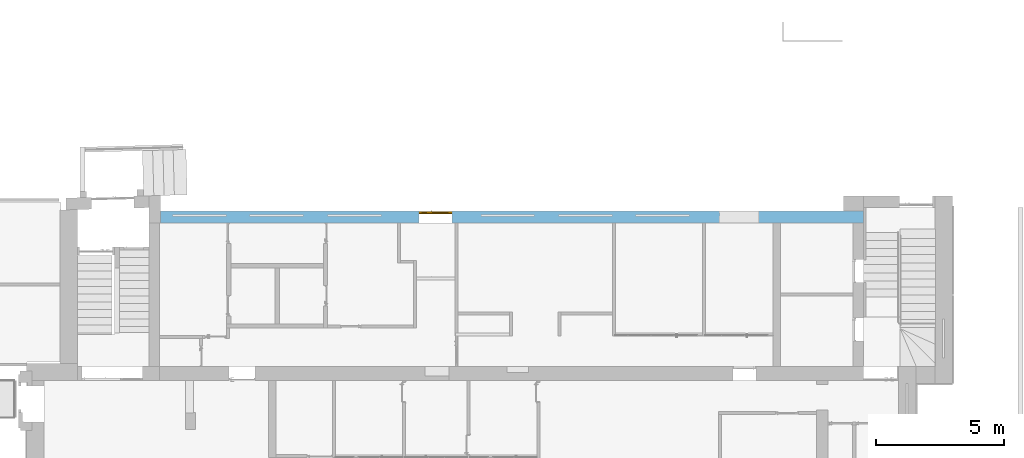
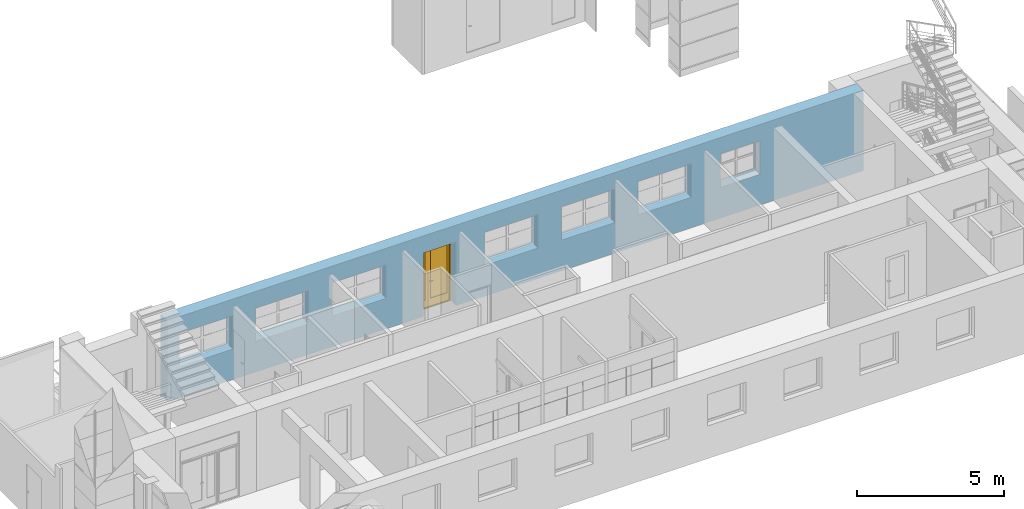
# One storey, part 38 of 49: 1 door, 8 openings, plus 1 element that does not belong to this part.
"""IFC2X3 building model written with IfcOpenShell, lengths in millimetres."""

from ifc_helpers import new_model, entity, si_unit, converted_unit, derived_unit, direction, frame, frame_2d, origin, place, context, subcontext, project, spatial, rectangle, extrude, faceted_brep, source, transform, mapped, material, material_list, layer, layer_set, layer_usage, type_object, type_shapes, element, fill, save


model = new_model("IFC2X3")

# Units and contexts
model_context = context("Model", 3, precision=0.01, world=origin(), true_north=direction((6.12303176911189e-17, 1.0)))
body_context = subcontext(model_context, "Body", "Model", "MODEL_VIEW")
ifc_project = project(units=[si_unit("LENGTHUNIT", "METRE", prefix="MILLI"), si_unit("AREAUNIT", "SQUARE_METRE"), si_unit("VOLUMEUNIT", "CUBIC_METRE"), converted_unit("PLANEANGLEUNIT", "DEGREE", entity("IfcRatioMeasure", 0.0174532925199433), si_unit("PLANEANGLEUNIT", "RADIAN"), dimensions=[0, 0, 0, 0, 0, 0, 0]), si_unit("MASSUNIT", "GRAM", prefix="KILO"), derived_unit("MASSDENSITYUNIT", [(si_unit("MASSUNIT", "GRAM", prefix="KILO"), 1), (si_unit("LENGTHUNIT", "METRE"), -3)]), si_unit("TIMEUNIT", "SECOND"), si_unit("FREQUENCYUNIT", "HERTZ"), si_unit("THERMODYNAMICTEMPERATUREUNIT", "DEGREE_CELSIUS"), derived_unit("THERMALTRANSMITTANCEUNIT", [(si_unit("MASSUNIT", "GRAM", prefix="KILO"), 1), (si_unit("THERMODYNAMICTEMPERATUREUNIT", "KELVIN"), -1), (si_unit("TIMEUNIT", "SECOND"), -3)]), derived_unit("VOLUMETRICFLOWRATEUNIT", [(si_unit("LENGTHUNIT", "METRE"), 3), (si_unit("TIMEUNIT", "SECOND"), -1)]), si_unit("ELECTRICCURRENTUNIT", "AMPERE"), si_unit("ELECTRICVOLTAGEUNIT", "VOLT"), si_unit("POWERUNIT", "WATT"), si_unit("FORCEUNIT", "NEWTON", prefix="KILO"), si_unit("ILLUMINANCEUNIT", "LUX"), si_unit("LUMINOUSFLUXUNIT", "LUMEN"), si_unit("LUMINOUSINTENSITYUNIT", "CANDELA"), derived_unit("USERDEFINED", [(si_unit("MASSUNIT", "GRAM", prefix="KILO"), -1), (si_unit("LENGTHUNIT", "METRE"), -2), (si_unit("TIMEUNIT", "SECOND"), 3), (si_unit("LUMINOUSFLUXUNIT", "LUMEN"), 1)]), derived_unit("LINEARVELOCITYUNIT", [(si_unit("LENGTHUNIT", "METRE"), 1), (si_unit("TIMEUNIT", "SECOND"), -1)]), si_unit("PRESSUREUNIT", "PASCAL"), derived_unit("USERDEFINED", [(si_unit("LENGTHUNIT", "METRE"), -2), (si_unit("MASSUNIT", "GRAM", prefix="KILO"), 1), (si_unit("TIMEUNIT", "SECOND"), -2)])], contexts=[model_context])

# Site, building, storey
site_placement = place(None, frame((-151.875543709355, 2715.0, 0.0)))
site = spatial("IfcSite", under=ifc_project, at=site_placement, Name="Surface", CompositionType="ELEMENT")
building_placement = place(site_placement, origin())
building = spatial("IfcBuilding", under=site, at=building_placement, CompositionType="ELEMENT")
storey_placement = place(building_placement, origin())
storey = spatial("IfcBuildingStorey", under=building, at=storey_placement, Name="1 korrus", CompositionType="ELEMENT", Elevation=3.0969999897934e-10)

# Wall, openings, door
ifc_material_1 = material(Name="Brick, Common")
ifc_layer_1 = layer(ifc_material_1, 440.0)
ifc_material_2 = material(Name="__Kips GN13_tava")
ifc_layer_2 = layer(ifc_material_2, 20.0)
ifc_layer_set = layer_set([ifc_layer_1, ifc_layer_2], Name="Basic Wall:VS-1")
ifc_layer_usage = layer_usage(ifc_layer_set, "AXIS2", "POSITIVE", -230.0)
wall_type = type_object("IfcWallType", Name="Basic Wall:VS-1", PredefinedType="STANDARD", material=ifc_layer_set)
wall_placement = place(storey_placement, frame((32372.6162682, 12380.0, 0.0), z_axis=(0.0, 0.0, 1.0), x_axis=(-1.0, 0.0, 0.0)))
wall = element("IfcWallStandardCase", 1, at=wall_placement, inside=storey, type_object=wall_type, material=ifc_layer_usage, Name="SEIN - 005", ObjectType="Basic Wall:VS-1", context=body_context, shape_type="SweptSolid", body=[
    extrude(rectangle(XDim=27372.5418693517, YDim=459.999999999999, at=frame_2d((13686.2709346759, 0.0), x_axis=(-1.0, 0.0))), origin(), (0.0, 0.0, 1.0), 3350.0),
])
opening_1_placement = place(wall_placement, frame((17305.16015629, 230.0, 0.0)))
opening_1 = element("IfcOpeningElement", 2, at=opening_1_placement, cuts=wall, Name="Kahepoolsed:VU-03:1", ObjectType="Opening", context=body_context, shape_type="SweptSolid", body=[
    extrude(rectangle(XDim=2651.99999999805, YDim=1280.0, at=frame_2d((1325.99999999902, 640.0), x_axis=(1.0, 0.0))), frame((0.0, 0.0, 0.0), z_axis=(0.0, -1.0, 0.0), x_axis=(0.0, 0.0, 1.0)), (0.0, 0.0, 1.0), 460.0),
])
opening_2_placement = place(wall_placement, frame((32372.6162682, 12380.0, 0.0), z_axis=(0.0, 0.0, 1.0), x_axis=(-1.0, 0.0, 0.0)))
element("IfcOpeningElement", 3, at=opening_2_placement, cuts=wall, Name="SEIN - 005", ObjectType="Opening", context=body_context, shape_type="SweptSolid", body=[
    extrude(rectangle(XDim=1390.0, YDim=2100.0, at=frame_2d((0.0, -1.70530256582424e-13), x_axis=(0.0, 1.0))), frame((21548.54845151, 13075.9, 1965.0), z_axis=(0.0, -1.0, 0.0), x_axis=(-1.0, 0.0, 0.0)), (0.0, 0.0, 1.0), 1393.8),
])
opening_3_placement = place(wall_placement, frame((32372.6162682, 12380.0, 0.0), z_axis=(0.0, 0.0, 1.0), x_axis=(-1.0, 0.0, 0.0)))
element("IfcOpeningElement", 4, at=opening_3_placement, cuts=wall, Name="SEIN - 005", ObjectType="Opening", context=body_context, shape_type="SweptSolid", body=[
    extrude(rectangle(XDim=1390.0, YDim=2100.0, at=frame_2d((0.0, -1.70530256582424e-13), x_axis=(0.0, 1.0))), frame((18519.33212281, 13075.9, 1965.0), z_axis=(0.0, -1.0, 0.0), x_axis=(-1.0, 0.0, 0.0)), (0.0, 0.0, 1.0), 1393.8),
])
opening_4_placement = place(wall_placement, frame((32372.6162682, 12380.0, 0.0), z_axis=(0.0, 0.0, 1.0), x_axis=(-1.0, 0.0, 0.0)))
element("IfcOpeningElement", 5, at=opening_4_placement, cuts=wall, Name="SEIN - 005", ObjectType="Opening", context=body_context, shape_type="SweptSolid", body=[
    extrude(rectangle(XDim=1390.0, YDim=2100.0, at=frame_2d((0.0, -1.70530256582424e-13), x_axis=(0.0, 1.0))), frame((24552.23007201, 13075.9, 1965.0), z_axis=(0.0, -1.0, 0.0), x_axis=(-1.0, 0.0, 0.0)), (0.0, 0.0, 1.0), 1393.8),
])
opening_5_placement = place(wall_placement, frame((32372.6162682, 12380.0, 0.0), z_axis=(0.0, 0.0, 1.0), x_axis=(-1.0, 0.0, 0.0)))
element("IfcOpeningElement", 6, at=opening_5_placement, cuts=wall, Name="SEIN - 005", ObjectType="Opening", context=body_context, shape_type="SweptSolid", body=[
    extrude(rectangle(XDim=1390.0, YDim=2100.0, at=frame_2d((1.02318153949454e-12, -1.70530256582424e-13), x_axis=(0.0, 1.0))), frame((12554.42733764, 13075.9, 1965.0), z_axis=(0.0, -1.0, 0.0), x_axis=(-1.0, 0.0, 0.0)), (0.0, 0.0, 1.0), 1393.8),
])
opening_6_placement = place(wall_placement, frame((32372.6162682, 12380.0, 0.0), z_axis=(0.0, 0.0, 1.0), x_axis=(-1.0, 0.0, 0.0)))
element("IfcOpeningElement", 7, at=opening_6_placement, cuts=wall, Name="SEIN - 005", ObjectType="Opening", context=body_context, shape_type="SweptSolid", body=[
    extrude(rectangle(XDim=1390.0, YDim=2100.0, at=frame_2d((0.0, -1.70530256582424e-13), x_axis=(0.0, 1.0))), frame((9509.01718139, 13075.9, 1965.0), z_axis=(0.0, -1.0, 0.0), x_axis=(-1.0, 0.0, 0.0)), (0.0, 0.0, 1.0), 1393.8),
])
opening_7_placement = place(wall_placement, frame((32372.6162682, 12380.0, 0.0), z_axis=(0.0, 0.0, 1.0), x_axis=(-1.0, 0.0, 0.0)))
element("IfcOpeningElement", 8, at=opening_7_placement, cuts=wall, Name="SEIN - 005", ObjectType="Opening", context=body_context, shape_type="SweptSolid", body=[
    extrude(rectangle(XDim=1390.0, YDim=2100.0, at=frame_2d((-5.6843418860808e-13, -1.70530256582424e-13), x_axis=(0.0, 1.0))), frame((6523.47761591, 13075.9, 1965.0), z_axis=(0.0, -1.0, 0.0), x_axis=(-1.0, 0.0, 0.0)), (0.0, 0.0, 1.0), 1393.8),
])
opening_8_placement = place(wall_placement, frame((5619.75387196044, 730.0, 1013.53078801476), z_axis=(0.0, 0.0, 1.0), x_axis=(-1.0, 0.0, 0.0)))
element("IfcOpeningElement", 9, at=opening_8_placement, cuts=wall, Name="SEIN - 005", ObjectType="Opening", context=body_context, shape_type="Brep", body=[
    faceted_brep([(0.0, 1460.0, 1666.46921198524), (0.0, 0.0, 1666.46921198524), (1560.0, 0.0, 1666.46921198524), (1560.0, 1460.0, 1666.46921198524), (1560.0, 910.0, 256.469211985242), (1560.0, 0.0, 256.469211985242), (0.0, 0.0, 256.469211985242), (0.0, 910.0, 256.469211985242), (0.0, 1460.0, 0.0), (1560.0, 1460.0, 0.0)], [[[0, 1, 2, 3]], [[4, 5, 6, 7]], [[0, 8, 7, 6, 1]], [[2, 5, 4, 9, 3]], [[3, 9, 8, 0]], [[8, 9, 4, 7]], [[1, 6, 5, 2]]]),
])
ifc_material_3 = material(Name="_Alumiiniumprofiil - must")
ifc_material_4 = material(Name="Steel/Aluminium")
ifc_material_5 = material(Name="EP Tavallinen lasi")
ifc_material_list_1 = material_list([ifc_material_3, ifc_material_4, ifc_material_5])
ifc_material_list_2 = material_list([ifc_material_3, ifc_material_4, ifc_material_5])
door_style = type_object("IfcDoorStyle", Name="VU-03", ConstructionType="NOTDEFINED", OperationType="FOLDING_TO_RIGHT", ParameterTakesPrecedence=False, Sizeable=False, material=ifc_material_list_2)
shared_shape = source(origin(), body_context, "Body", "Brep", [
    faceted_brep([(420.260051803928, 350.0, 1100.0), (420.260051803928, 388.0, 1100.0), (395.260051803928, 388.0, 1100.0), (395.260051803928, 345.0, 1100.0), (515.260051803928, 345.0, 1100.0), (515.260051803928, 350.0, 1100.0), (420.260051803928, 350.0, 1075.0), (515.260051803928, 350.0, 1075.0), (515.260051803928, 345.0, 1075.0), (395.260051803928, 345.0, 1075.0), (395.260051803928, 388.0, 1075.0), (420.260051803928, 388.0, 1075.0)], [[[0, 1, 2, 3, 4, 5]], [[6, 7, 8, 9, 10, 11]], [[1, 0, 6, 11]], [[2, 1, 11, 10]], [[3, 2, 10, 9]], [[4, 3, 9, 8]], [[5, 4, 8, 7]], [[0, 5, 7, 6]]]),
    faceted_brep([(432.760051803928, 388.0, 1125.0), (432.760051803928, 390.0, 1125.0), (382.760051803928, 390.0, 1125.0), (382.760051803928, 388.0, 1125.0), (432.760051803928, 388.0, 1005.0), (382.760051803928, 388.0, 1005.0), (382.760051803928, 390.0, 1005.0), (432.760051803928, 390.0, 1005.0)], [[[0, 1, 2, 3]], [[4, 5, 6, 7]], [[1, 0, 4, 7]], [[2, 1, 7, 6]], [[3, 2, 6, 5]], [[0, 3, 5, 4]]]),
    faceted_brep([(420.26005180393, 480.0, 1100.0), (515.26005180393, 480.0, 1100.0), (515.26005180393, 485.0, 1100.0), (395.26005180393, 485.0, 1100.0), (395.26005180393, 442.0, 1100.0), (420.26005180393, 442.0, 1100.0), (420.26005180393, 480.0, 1075.0), (420.26005180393, 442.0, 1075.0), (395.26005180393, 442.0, 1075.0), (395.26005180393, 485.0, 1075.0), (515.26005180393, 485.0, 1075.0), (515.26005180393, 480.0, 1075.0)], [[[0, 1, 2, 3, 4, 5]], [[6, 7, 8, 9, 10, 11]], [[5, 7, 6, 0]], [[4, 8, 7, 5]], [[3, 9, 8, 4]], [[2, 10, 9, 3]], [[1, 11, 10, 2]], [[0, 6, 11, 1]]]),
    faceted_brep([(432.76005180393, 442.0, 1125.0), (382.76005180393, 442.0, 1125.0), (382.76005180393, 440.0, 1125.0), (432.76005180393, 440.0, 1125.0), (432.76005180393, 442.0, 1005.0), (432.76005180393, 440.0, 1005.0), (382.76005180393, 440.0, 1005.0), (382.76005180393, 442.0, 1005.0)], [[[0, 1, 2, 3]], [[4, 5, 6, 7]], [[3, 5, 4, 0]], [[2, 6, 5, 3]], [[1, 7, 6, 2]], [[0, 4, 7, 1]]]),
    faceted_brep([(-27.2399481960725, 350.0, 30.0), (-27.2399481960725, 390.0, 30.0), (-27.2399481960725, 390.0, 20.0), (-27.2399481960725, 390.0, 0.0), (-27.2399481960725, 350.0, 0.0), (1172.76005180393, 350.0, 30.0), (1172.76005180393, 350.0, 0.0), (1172.76005180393, 390.0, 0.0), (1172.76005180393, 390.0, 20.0), (1172.76005180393, 390.0, 30.0), (-42.2399481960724, 390.0, 0.0), (-42.2399481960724, 440.0, 0.0), (1187.76005180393, 440.0, 0.0), (1187.76005180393, 390.0, 0.0), (-42.2399481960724, 440.0, 20.0), (-42.2399481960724, 390.0, 20.0), (1187.76005180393, 440.0, 20.0), (1187.76005180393, 390.0, 20.0)], [[[0, 1, 2, 3, 4]], [[5, 6, 7, 8, 9]], [[4, 6, 5, 0]], [[3, 10, 11, 12, 13, 7, 6, 4]], [[9, 8, 2, 1]], [[0, 5, 9, 1]], [[14, 11, 10, 15]], [[16, 17, 13, 12]], [[15, 2, 8, 17, 16, 14]], [[10, 3, 2, 15]], [[14, 16, 12, 11]], [[17, 8, 7, 13]]]),
    faceted_brep([(-67.2399481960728, 350.0, 0.0), (-67.2399481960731, 440.0, 0.0), (-42.2399481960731, 440.0, 0.0), (-42.239948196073, 390.0, 0.0), (-27.239948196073, 390.0, 0.0), (-27.2399481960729, 350.0, 0.0), (-27.2399481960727, 350.0, 2612.0), (1172.76005180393, 350.0, 2612.0), (1172.76005180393, 350.0, 0.0), (1212.76005180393, 350.0, 0.0), (1212.76005180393, 350.0, 2652.0), (-67.2399481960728, 350.0, 2652.0), (-27.2399481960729, 390.0, 2612.0), (-42.2399481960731, 390.0, 2627.0), (1187.76005180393, 390.0, 2627.0), (1187.76005180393, 390.0, 0.0), (1172.76005180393, 390.0, 0.0), (1172.76005180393, 390.0, 2612.0), (-42.239948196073, 440.0, 2627.0), (-67.2399481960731, 440.0, 2652.0), (1212.76005180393, 440.0, 2652.0), (1212.76005180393, 440.0, 0.0), (1187.76005180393, 440.0, 0.0), (1187.76005180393, 440.0, 2627.0)], [[[0, 1, 2, 3, 4, 5]], [[5, 6, 7, 8, 9, 10, 11, 0]], [[4, 12, 6, 5]], [[3, 13, 14, 15, 16, 17, 12, 4]], [[2, 18, 13, 3]], [[1, 19, 20, 21, 22, 23, 18, 2]], [[0, 11, 19, 1]], [[9, 21, 20, 10]], [[8, 16, 15, 22, 21, 9]], [[7, 17, 16, 8]], [[14, 23, 22, 15]], [[6, 12, 17, 7]], [[13, 18, 23, 14]], [[10, 20, 19, 11]]]),
    faceted_brep([(1087.76005180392, 405.0, 350.0), (1087.76005180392, 405.0, 2552.0), (432.760051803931, 405.0, 2552.0), (432.760051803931, 405.0, 350.0), (1087.76005180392, 425.0, 350.0), (432.760051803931, 425.0, 350.0), (432.760051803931, 425.0, 2552.0), (1087.76005180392, 425.0, 2552.0)], [[[0, 1, 2, 3]], [[4, 5, 6, 7]], [[3, 5, 4, 0]], [[2, 6, 5, 3]], [[1, 7, 6, 2]], [[0, 4, 7, 1]]]),
    faceted_brep([(232.760051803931, 405.0, 350.0), (232.760051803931, 405.0, 2552.0), (32.7600518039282, 405.0, 2552.0), (32.7600518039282, 405.0, 350.0), (232.760051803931, 425.0, 350.0), (32.7600518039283, 425.0, 350.0), (32.7600518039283, 425.0, 2552.0), (232.760051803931, 425.0, 2552.0)], [[[0, 1, 2, 3]], [[4, 5, 6, 7]], [[3, 5, 4, 0]], [[2, 6, 5, 3]], [[1, 7, 6, 2]], [[0, 4, 7, 1]]]),
    faceted_brep([(332.760051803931, 390.0, 2627.0), (332.760051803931, 390.0, 20.0), (1187.76005180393, 390.0, 20.0), (1187.76005180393, 390.0, 2627.0), (1087.76005180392, 390.0, 350.0), (432.760051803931, 390.0, 350.0), (432.760051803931, 390.0, 2552.0), (1087.76005180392, 390.0, 2552.0), (332.760051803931, 440.0, 2627.0), (1187.76005180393, 440.0, 2627.0), (1187.76005180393, 440.0, 20.0), (332.760051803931, 440.0, 20.0), (1087.76005180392, 440.0, 2552.0), (432.760051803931, 440.0, 2552.0), (432.760051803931, 440.0, 350.0), (1087.76005180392, 440.0, 350.0)], [[[0, 1, 2, 3], [4, 5, 6, 7]], [[8, 9, 10, 11], [12, 13, 14, 15]], [[3, 9, 8, 0]], [[2, 10, 9, 3]], [[1, 11, 10, 2]], [[0, 8, 11, 1]], [[12, 15, 4, 7]], [[15, 14, 5, 4]], [[14, 13, 6, 5]], [[7, 6, 13, 12]]]),
    faceted_brep([(332.760051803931, 390.0, 2627.0), (-42.2399481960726, 390.0, 2627.0), (-42.2399481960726, 390.0, 20.0), (332.760051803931, 390.0, 20.0), (232.760051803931, 390.0, 350.0), (32.7600518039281, 390.0, 350.0), (32.7600518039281, 390.0, 2552.0), (232.760051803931, 390.0, 2552.0), (332.760051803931, 440.0, 2627.0), (332.760051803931, 440.0, 20.0), (-42.2399481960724, 440.0, 20.0), (-42.2399481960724, 440.0, 2627.0), (232.760051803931, 440.0, 2552.0), (32.7600518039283, 440.0, 2552.0), (32.7600518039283, 440.0, 350.0), (232.760051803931, 440.0, 350.0)], [[[0, 1, 2, 3], [4, 5, 6, 7]], [[8, 9, 10, 11], [12, 13, 14, 15]], [[3, 9, 8, 0]], [[2, 10, 9, 3]], [[1, 11, 10, 2]], [[0, 8, 11, 1]], [[12, 15, 4, 7]], [[15, 14, 5, 4]], [[14, 13, 6, 5]], [[7, 6, 13, 12]]]),
])
type_shapes(door_style, [shared_shape])
door_placement = place(opening_1_placement, frame((-67.2399481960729, 0.0, 0.0), z_axis=(0.0, 0.0, 1.0), x_axis=(-1.0, 0.0, 0.0)))
door = element("IfcDoor", 10, at=door_placement, inside=storey, type_object=door_style, material=ifc_material_list_1, Name="Kahepoolsed:VU-03", ObjectType="VU-03", OverallHeight=2651.99999999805, OverallWidth=1280.0, context=body_context, shape_type="MappedRepresentation", body=[
    mapped(shared_shape, transform((0.0, 0.0, 0.0), scale=1.0)),
])
fill(opening_1, door)

save(model, "model.ifc")
